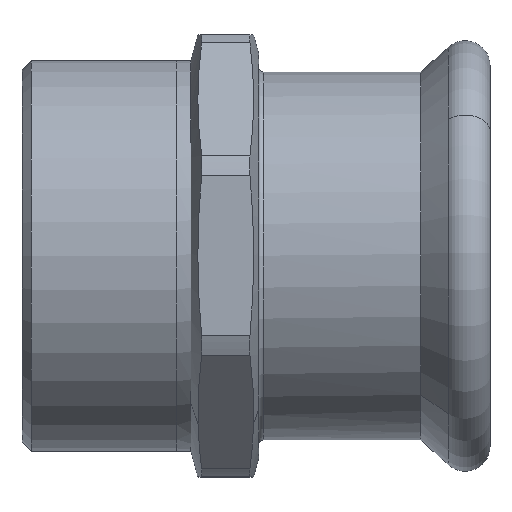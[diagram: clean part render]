
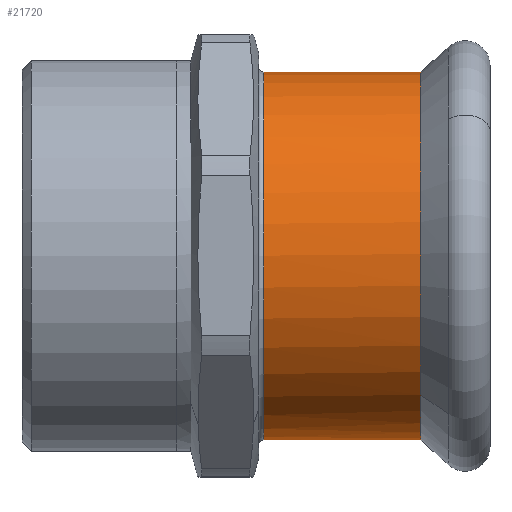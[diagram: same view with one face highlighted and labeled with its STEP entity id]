
A CAD part, top view. The second image highlights one B-rep face of the part: STEP entity #21720.
In plain terms, the highlighted cylindrical face has radius 35.375 mm (diameter 70.75 mm), a partial arc.
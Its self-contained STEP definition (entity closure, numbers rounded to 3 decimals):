
#1880=CARTESIAN_POINT('',(42.5,0.,0.));
#1890=DIRECTION('',(-1.,0.,0.));
#1900=DIRECTION('',(0.,1.,0.));
#1910=AXIS2_PLACEMENT_3D('',#1880,#1890,#1900);
#1920=CYLINDRICAL_SURFACE('',#1910,35.375);
#1930=CARTESIAN_POINT('',(68.894,0.,
0.));
#1940=DIRECTION('',(1.,0.,0.));
#1950=DIRECTION('',(0.,0.757,
-0.654));
#1960=AXIS2_PLACEMENT_3D('',#1930,#1940,#1950);
#1970=CIRCLE('',#1960,35.375);
#2000=CARTESIAN_POINT('',(68.894,35.375,0.));
#2010=VERTEX_POINT('',#2000);
#2040=CARTESIAN_POINT('',(42.5,35.375,0.));
#2050=DIRECTION('',(-1.,0.,0.));
#2060=VECTOR('',#2050,1.);
#2070=LINE('',#2040,#2060);
#2080=CARTESIAN_POINT('',(38.728,35.375,0.));
#2090=VERTEX_POINT('',#2080);
#2100=EDGE_CURVE('',#2010,#2090,#2070,.T.);
#2120=CARTESIAN_POINT('',(38.728,0.,0.));
#2130=DIRECTION('',(-1.,0.,0.));
#2140=DIRECTION('',(0.,1.,0.));
#2150=AXIS2_PLACEMENT_3D('',#2120,#2130,#2140);
#2160=CIRCLE('',#2150,35.375);
#2170=CARTESIAN_POINT('',(38.728,-35.375,0.));
#2180=VERTEX_POINT('',#2170);
#2210=CARTESIAN_POINT('',(42.5,-35.375,0.));
#2220=DIRECTION('',(-1.,0.,0.));
#2230=VECTOR('',#2220,1.);
#2240=LINE('',#2210,#2230);
#2250=CARTESIAN_POINT('',(68.894,-35.375,0.
));
#2260=VERTEX_POINT('',#2250);
#2270=EDGE_CURVE('',#2260,#2180,#2240,.T.);
#6820=CARTESIAN_POINT('',(68.894,-26.767,
23.128));
#6830=VERTEX_POINT('',#6820);
#6840=EDGE_CURVE('',#6830,#2260,#1970,.T.);
#8900=EDGE_CURVE('',#2180,#2090,#2160,.T.);
#21290=EDGE_CURVE('',#2010,#6830,#1970,.T.);
#21650=ORIENTED_EDGE('',*,*,#2100,.T.);
#21660=ORIENTED_EDGE('',*,*,#21290,.F.);
#21670=ORIENTED_EDGE('',*,*,#6840,.F.);
#21680=ORIENTED_EDGE('',*,*,#2270,.F.);
#21690=ORIENTED_EDGE('',*,*,#8900,.F.);
#21700=EDGE_LOOP('',(#21690,#21680,#21670,#21660,#21650));
#21710=FACE_OUTER_BOUND('',#21700,.T.);
#21720=ADVANCED_FACE('',(#21710),#1920,.T.);
